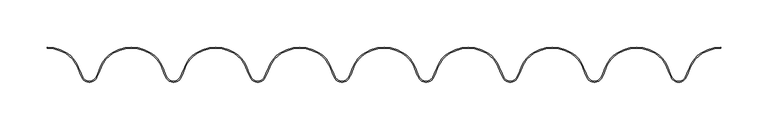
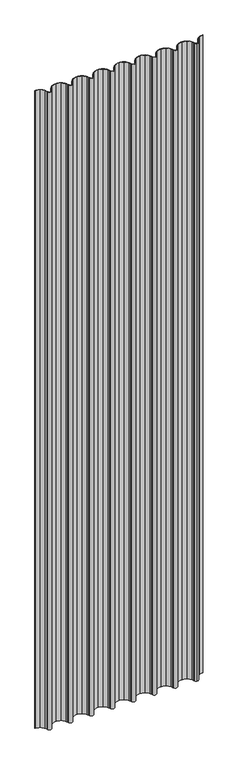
"""IFC4 building model written with IfcOpenShell, lengths in millimetres: plate geometry, Regolare Vertical 712 : Regolare Vertical 712."""

import ifcopenshell
import ifcopenshell.guid

model = None  # the IFC model being written
_history = None  # IfcOwnerHistory: only IFC2X3 demands one
_inside = {}  # id of a spatial element -> (the spatial element, [elements in it])
_under = {}  # id of a project, library or spatial element -> (it, [spatial elements below it])
_declared = {}  # id of a project -> (the project, [libraries it declares])
_typed = {}  # id of a type object -> (the type object, [elements of that type])
_made_of = {}  # id of a material, layer set ... -> (it, [elements and type objects made of it])


def new_model(schema):
    """Start an empty IFC model of exactly this schema.

    Asked for "IFC4X3", IfcOpenShell would pick the latest addendum, in which some entities
    have other attributes; the version numbers below select the first issue.
    IFC2X3 requires an IfcOwnerHistory on every rooted entity: one is made here for all.
    """
    global model, _history
    if schema == "IFC4X3":
        model = ifcopenshell.file(schema_version=(4, 3, 0, 0))
    else:
        model = ifcopenshell.file(schema=schema)
    _inside.clear()
    _under.clear()
    _declared.clear()
    _typed.clear()
    _made_of.clear()
    _history = None
    if model.schema == "IFC2X3":
        org = make("IfcOrganization", Name="unknown")
        user = make(
            "IfcPersonAndOrganization",
            ThePerson=make("IfcPerson", FamilyName="unknown"),
            TheOrganization=org,
        )
        app = make(
            "IfcApplication",
            ApplicationDeveloper=org,
            Version="unknown",
            ApplicationFullName="unknown",
            ApplicationIdentifier="unknown",
        )
        _history = make(
            "IfcOwnerHistory",
            OwningUser=user,
            OwningApplication=app,
            ChangeAction="ADDED",
            CreationDate=0,
        )
    return model


def make(cls, **values):
    """One entity of the class cls with the attributes given. An attribute that is None is left unset."""
    return model.create_entity(
        cls, **{name: value for name, value in values.items() if value is not None}
    )


def rooted(cls, **values):
    """An entity with a GlobalId (a new one), such as an element, a storey or a relation."""
    return make(cls, GlobalId=ifcopenshell.guid.new(), OwnerHistory=_history, **values)


def si_unit(unit_type, name, prefix=None):
    """IfcSIUnit, for example si_unit("LENGTHUNIT", "METRE", prefix="MILLI")."""
    return make("IfcSIUnit", UnitType=unit_type, Prefix=prefix, Name=name)


def assignment(units):
    """IfcUnitAssignment: the units of a project."""
    return None if units is None else make("IfcUnitAssignment", Units=units)


def point(xyz):
    """IfcCartesianPoint."""
    return None if xyz is None else make("IfcCartesianPoint", Coordinates=xyz)


def direction(xyz):
    """IfcDirection."""
    return None if xyz is None else make("IfcDirection", DirectionRatios=xyz)


def frame(location, z_axis=None, x_axis=None):
    """IfcAxis2Placement3D, a coordinate frame: its origin and axes. An axis left out is left unset."""
    return make(
        "IfcAxis2Placement3D",
        Location=point(location),
        Axis=direction(z_axis),
        RefDirection=direction(x_axis),
    )


def frame_2d(location, x_axis=None):
    """IfcAxis2Placement2D, a coordinate frame in the plane: its origin and x axis."""
    return make(
        "IfcAxis2Placement2D", Location=point(location), RefDirection=direction(x_axis)
    )


def origin():
    """The frame at (0, 0, 0) with its axes left unset."""
    return frame((0.0, 0.0, 0.0))


def origin_with_axes():
    """The frame at (0, 0, 0) with the z axis (0, 0, 1) and the x axis (1, 0, 0) written out."""
    return frame((0.0, 0.0, 0.0), z_axis=(0.0, 0.0, 1.0), x_axis=(1.0, 0.0, 0.0))


def place(relative_to, where):
    """IfcLocalPlacement: puts the frame where relative to a parent placement (None: the world)."""
    return make(
        "IfcLocalPlacement", PlacementRelTo=relative_to, RelativePlacement=where
    )


def context(
    kind, dimensions, precision=None, world=None, true_north=None, identifier=None
):
    """IfcGeometricRepresentationContext, for example the 3D "Model" context."""
    return make(
        "IfcGeometricRepresentationContext",
        ContextIdentifier=identifier,
        ContextType=kind,
        CoordinateSpaceDimension=dimensions,
        Precision=precision,
        WorldCoordinateSystem=world,
        TrueNorth=true_north,
    )


def project(units=None, contexts=None):
    """IfcProject with its units and contexts."""
    return rooted(
        "IfcProject",
        Name="project",
        RepresentationContexts=contexts,
        UnitsInContext=assignment(units),
    )


def spatial(cls, under=None, at=None, **own):
    """A site, building, storey or space (cls), placed at a placement, below another one or the project."""
    s = rooted(cls, ObjectPlacement=at, **own)
    if under is not None:
        _under.setdefault(under.id(), (under, []))[1].append(s)
    return s


def polyline(points):
    """IfcPolyline through the points."""
    return make("IfcPolyline", Points=[point(p) for p in points])


def circle_curve(where, radius):
    """IfcCircle in the frame where."""
    return make("IfcCircle", Position=where, Radius=radius)


def trimmed(basis, trim1, trim2, sense, master):
    """IfcTrimmedCurve: the piece of a basis curve between two trims."""
    return make(
        "IfcTrimmedCurve",
        BasisCurve=basis,
        Trim1=trim1,
        Trim2=trim2,
        SenseAgreement=sense,
        MasterRepresentation=master,
    )


def segment(curve, same_sense, transition):
    """IfcCompositeCurveSegment."""
    return make(
        "IfcCompositeCurveSegment",
        Transition=transition,
        SameSense=same_sense,
        ParentCurve=curve,
    )


def composite_curve(segments, self_intersect=None):
    """IfcCompositeCurve: segments joined end to end."""
    return make("IfcCompositeCurve", Segments=segments, SelfIntersect=self_intersect)


def outline(outer, holes=None, kind="AREA"):
    """IfcArbitraryClosedProfileDef: a profile drawn as a closed curve; with holes, ...WithVoids."""
    if holes is None:
        return make("IfcArbitraryClosedProfileDef", ProfileType=kind, OuterCurve=outer)
    return make(
        "IfcArbitraryProfileDefWithVoids",
        ProfileType=kind,
        OuterCurve=outer,
        InnerCurves=holes,
    )


def extrude(swept, where, along, depth):
    """IfcExtrudedAreaSolid: the profile swept, set in the frame where, extruded along a direction by depth."""
    return make(
        "IfcExtrudedAreaSolid",
        SweptArea=swept,
        Position=where,
        ExtrudedDirection=direction(along),
        Depth=depth,
    )


def shape(context_of_items, identifier, shape_type, items):
    """IfcShapeRepresentation: the items that make up one representation, for example the "Body"."""
    return make(
        "IfcShapeRepresentation",
        ContextOfItems=context_of_items,
        RepresentationIdentifier=identifier,
        RepresentationType=shape_type,
        Items=items,
    )


def source(mapping_origin, context_of_items, identifier, shape_type, items):
    """IfcRepresentationMap: a shape defined once, which mapped items show again and again."""
    return make(
        "IfcRepresentationMap",
        MappingOrigin=mapping_origin,
        MappedRepresentation=shape(context_of_items, identifier, shape_type, items),
    )


def transform(
    local_origin,
    x_axis=None,
    y_axis=None,
    z_axis=None,
    scale=None,
    scale2=None,
    scale3=None,
    uniform=True,
):
    """IfcCartesianTransformationOperator3D, or its non-uniform kind. x_axis, y_axis, z_axis: its Axis1, 2, 3."""
    if uniform:
        return make(
            "IfcCartesianTransformationOperator3D",
            Axis1=direction(x_axis),
            Axis2=direction(y_axis),
            LocalOrigin=point(local_origin),
            Scale=scale,
            Axis3=direction(z_axis),
        )
    return make(
        "IfcCartesianTransformationOperator3DnonUniform",
        Axis1=direction(x_axis),
        Axis2=direction(y_axis),
        LocalOrigin=point(local_origin),
        Scale=scale,
        Axis3=direction(z_axis),
        Scale2=scale2,
        Scale3=scale3,
    )


def mapped(mapping_source, mapping_target):
    """IfcMappedItem: shows the shape of a source again, moved by a transform."""
    return make(
        "IfcMappedItem", MappingSource=mapping_source, MappingTarget=mapping_target
    )


def made_of(thing, what):
    """Note that an element or type object is made of a material, layer set ...; save() writes the relation."""
    if what is not None:
        _made_of.setdefault(what.id(), (what, []))[1].append(thing)
    return thing


def element(
    cls,
    number,
    at=None,
    inside=None,
    cuts=None,
    type_object=None,
    material=None,
    context=None,
    identifier="Body",
    shape_type=None,
    held_by="IfcProductDefinitionShape",
    body=None,
    shapes=None,
    **own,
):
    """One element of the class cls, such as IfcWall. Its Tag is "e" and its number.

    at: its placement. inside: the storey or other place that contains it. cuts: it is an
    opening in that element (IfcRelVoidsElement). A single representation is given by context,
    identifier, shape_type and body (its items); several are given by shapes. held_by: the class
    of the entity that holds the representations. save() writes the other relations.
    """
    e = rooted(cls, Tag="e%d" % number, ObjectPlacement=at, **own)
    if body is not None:
        shapes = [shape(context, identifier, shape_type, body)]
    if shapes is not None:
        e.Representation = make(held_by, Representations=shapes)
    if inside is not None:
        _inside.setdefault(inside.id(), (inside, []))[1].append(e)
    if cuts is not None:
        rooted(
            "IfcRelVoidsElement", RelatingBuildingElement=cuts, RelatedOpeningElement=e
        )
    if type_object is not None:
        _typed.setdefault(type_object.id(), (type_object, []))[1].append(e)
    return made_of(e, material)


def aggregate(whole, parts):
    """IfcRelAggregates: a whole, such as a stair, and the parts it consists of."""
    return rooted("IfcRelAggregates", RelatingObject=whole, RelatedObjects=parts)


def save(model, path):
    """Write the relations noted so far, then the file.

    IfcRelAggregates (storeys below a building ...), IfcRelContainedInSpatialStructure (elements
    in a storey), IfcRelDefinesByType, IfcRelAssociatesMaterial and IfcRelDeclares: one each for
    every whole, place, type object, material and project.
    """
    for whole, parts in _under.values():
        aggregate(whole, parts)
    for where, things in _inside.values():
        rooted(
            "IfcRelContainedInSpatialStructure",
            RelatedElements=things,
            RelatingStructure=where,
        )
    for kind, things in _typed.values():
        rooted("IfcRelDefinesByType", RelatedObjects=things, RelatingType=kind)
    for what, things in _made_of.values():
        rooted("IfcRelAssociatesMaterial", RelatedObjects=things, RelatingMaterial=what)
    for by, libraries in _declared.values():
        rooted("IfcRelDeclares", RelatingContext=by, RelatedDefinitions=libraries)
    model.write(path)


def plate_0610edab(model_context):
    return source(origin(), model_context, "Body", "SweptSolid", [
        extrude(outline(composite_curve([segment(trimmed(circle_curve(frame_2d((352.6403111, -32.6206681)), 30.6166783), [point((336.6652062, -6.5021495))], [point((324.2132212, -21.2504634))], True, "CARTESIAN"), True, "CONTINUOUS"), segment(polyline([(324.2132212, -21.2504634), (321.3316353, -28.4448583), (319.6710106, -31.9093405)]), True, "CONTINUOUS"), segment(trimmed(circle_curve(frame_2d((311.6802118, -28.0791236)), 8.8613445), [point((319.6710106, -31.9093405))], [point((311.6802118, -36.9404682))], False, "CARTESIAN"), True, "CONTINUOUS"), segment(trimmed(circle_curve(frame_2d((311.6802118, -28.0791236)), 8.8613445), [point((311.6802118, -36.9404682))], [point((303.689413, -31.9093405))], False, "CARTESIAN"), True, "CONTINUOUS"), segment(polyline([(303.689413, -31.9093405), (302.0287882, -28.4448583), (299.1472023, -21.2504634)]), True, "CONTINUOUS"), segment(trimmed(circle_curve(frame_2d((270.7201125, -32.6206681)), 30.6166783), [point((299.1472023, -21.2504634))], [point((286.6952174, -6.5021495))], True, "CARTESIAN"), True, "CONTINUOUS"), segment(trimmed(circle_curve(frame_2d((267.1544672, -38.4503244)), 37.4503244), [point((286.6952174, -6.5021495))], [point((267.1544672, -1.0))], True, "CARTESIAN"), True, "CONTINUOUS"), segment(trimmed(circle_curve(frame_2d((267.1544672, -38.4503244)), 37.4503244), [point((267.1544672, -1.0))], [point((247.6137171, -6.5021495))], True, "CARTESIAN"), True, "CONTINUOUS"), segment(trimmed(circle_curve(frame_2d((263.588822, -32.6206681)), 30.6166783), [point((247.6137171, -6.5021495))], [point((235.1617322, -21.2504634))], True, "CARTESIAN"), True, "CONTINUOUS"), segment(polyline([(235.1617322, -21.2504634), (232.2801463, -28.4448583), (230.6195215, -31.9093405)]), True, "CONTINUOUS"), segment(trimmed(circle_curve(frame_2d((222.6287227, -28.0791236)), 8.8613445), [point((230.6195215, -31.9093405))], [point((214.6379239, -31.9093405))], False, "CARTESIAN"), True, "CONTINUOUS"), segment(polyline([(214.6379239, -31.9093405), (212.9772992, -28.4448583), (210.0957133, -21.2504634)]), True, "CONTINUOUS"), segment(trimmed(circle_curve(frame_2d((181.6686234, -32.6206681)), 30.6166783), [point((210.0957133, -21.2504634))], [point((197.6437283, -6.5021495))], True, "CARTESIAN"), True, "CONTINUOUS"), segment(trimmed(circle_curve(frame_2d((178.1029782, -38.4503244)), 37.4503244), [point((197.6437283, -6.5021495))], [point((178.1029782, -1.0))], True, "CARTESIAN"), True, "CONTINUOUS"), segment(trimmed(circle_curve(frame_2d((178.1029782, -38.4503244)), 37.4503244), [point((178.1029782, -1.0))], [point((158.562228, -6.5021495))], True, "CARTESIAN"), True, "CONTINUOUS"), segment(trimmed(circle_curve(frame_2d((174.5373329, -32.6206681)), 30.6166783), [point((158.562228, -6.5021495))], [point((146.1102431, -21.2504634))], True, "CARTESIAN"), True, "CONTINUOUS"), segment(polyline([(146.1102431, -21.2504634), (143.2286572, -28.4448583), (141.5680324, -31.9093405)]), True, "CONTINUOUS"), segment(trimmed(circle_curve(frame_2d((133.5772336, -28.0791236)), 8.8613445), [point((141.5680324, -31.9093405))], [point((125.5864348, -31.9093405))], False, "CARTESIAN"), True, "CONTINUOUS"), segment(polyline([(125.5864348, -31.9093405), (123.9258101, -28.4448583), (121.0442242, -21.2504634)]), True, "CONTINUOUS"), segment(trimmed(circle_curve(frame_2d((92.6171343, -32.6206681)), 30.6166783), [point((121.0442242, -21.2504634))], [point((108.5922392, -6.5021495))], True, "CARTESIAN"), True, "CONTINUOUS"), segment(trimmed(circle_curve(frame_2d((89.0514891, -38.4503244)), 37.4503244), [point((108.5922392, -6.5021495))], [point((89.0514891, -1.0))], True, "CARTESIAN"), True, "CONTINUOUS"), segment(trimmed(circle_curve(frame_2d((89.0514891, -38.4503244)), 37.4503244), [point((89.0514891, -1.0))], [point((69.5107389, -6.5021495))], True, "CARTESIAN"), True, "CONTINUOUS"), segment(trimmed(circle_curve(frame_2d((85.4858438, -32.6206681)), 30.6166783), [point((69.5107389, -6.5021495))], [point((57.058754, -21.2504634))], True, "CARTESIAN"), True, "CONTINUOUS"), segment(polyline([(57.058754, -21.2504634), (54.1771681, -28.4448583), (52.5165434, -31.9093405)]), True, "CONTINUOUS"), segment(trimmed(circle_curve(frame_2d((44.5257445, -28.0791236)), 8.8613445), [point((52.5165434, -31.9093405))], [point((36.5349457, -31.9093405))], False, "CARTESIAN"), True, "CONTINUOUS"), segment(polyline([(36.5349457, -31.9093405), (34.874321, -28.4448583), (31.9927351, -21.2504634)]), True, "CONTINUOUS"), segment(trimmed(circle_curve(frame_2d((3.5656452, -32.6206681)), 30.6166783), [point((31.9927351, -21.2504634))], [point((19.5407501, -6.5021495))], True, "CARTESIAN"), True, "CONTINUOUS"), segment(trimmed(circle_curve(frame_2d((0.0, -38.4503244)), 37.4503244), [point((19.5407501, -6.5021495))], [point((0.0, -1.0))], True, "CARTESIAN"), True, "CONTINUOUS"), segment(trimmed(circle_curve(frame_2d((0.0, -38.4503244)), 37.4503244), [point((0.0, -1.0))], [point((-19.5407501, -6.5021495))], True, "CARTESIAN"), True, "CONTINUOUS"), segment(trimmed(circle_curve(frame_2d((-3.5656452, -32.6206681)), 30.6166783), [point((-19.5407501, -6.5021495))], [point((-31.9927351, -21.2504634))], True, "CARTESIAN"), True, "CONTINUOUS"), segment(polyline([(-31.9927351, -21.2504634), (-34.874321, -28.4448583), (-36.5349457, -31.9093405)]), True, "CONTINUOUS"), segment(trimmed(circle_curve(frame_2d((-44.5257445, -28.0791236)), 8.8613445), [point((-36.5349457, -31.9093405))], [point((-52.5165434, -31.9093405))], False, "CARTESIAN"), True, "CONTINUOUS"), segment(polyline([(-52.5165434, -31.9093405), (-54.1771681, -28.4448583), (-57.058754, -21.2504634)]), True, "CONTINUOUS"), segment(trimmed(circle_curve(frame_2d((-85.4858438, -32.6206681)), 30.6166783), [point((-57.058754, -21.2504634))], [point((-69.5107389, -6.5021495))], True, "CARTESIAN"), True, "CONTINUOUS"), segment(trimmed(circle_curve(frame_2d((-89.0514891, -38.4503244)), 37.4503244), [point((-69.5107389, -6.5021495))], [point((-89.0514891, -1.0))], True, "CARTESIAN"), True, "CONTINUOUS"), segment(trimmed(circle_curve(frame_2d((-89.0514891, -38.4503244)), 37.4503244), [point((-89.0514891, -1.0))], [point((-108.5922392, -6.5021495))], True, "CARTESIAN"), True, "CONTINUOUS"), segment(trimmed(circle_curve(frame_2d((-92.6171343, -32.6206681)), 30.6166783), [point((-108.5922392, -6.5021495))], [point((-121.0442242, -21.2504634))], True, "CARTESIAN"), True, "CONTINUOUS"), segment(polyline([(-121.0442242, -21.2504634), (-123.9258101, -28.4448583), (-125.5864348, -31.9093405)]), True, "CONTINUOUS"), segment(trimmed(circle_curve(frame_2d((-133.5772336, -28.0791236)), 8.8613445), [point((-125.5864348, -31.9093405))], [point((-141.5680324, -31.9093405))], False, "CARTESIAN"), True, "CONTINUOUS"), segment(polyline([(-141.5680324, -31.9093405), (-143.2286572, -28.4448583), (-146.1102431, -21.2504634)]), True, "CONTINUOUS"), segment(trimmed(circle_curve(frame_2d((-174.5373329, -32.6206681)), 30.6166783), [point((-146.1102431, -21.2504634))], [point((-158.562228, -6.5021495))], True, "CARTESIAN"), True, "CONTINUOUS"), segment(trimmed(circle_curve(frame_2d((-178.1029782, -38.4503244)), 37.4503244), [point((-158.562228, -6.5021495))], [point((-178.1029782, -1.0))], True, "CARTESIAN"), True, "CONTINUOUS"), segment(trimmed(circle_curve(frame_2d((-178.1029782, -38.4503244)), 37.4503244), [point((-178.1029782, -1.0))], [point((-197.6437283, -6.5021495))], True, "CARTESIAN"), True, "CONTINUOUS"), segment(trimmed(circle_curve(frame_2d((-181.6686234, -32.6206681)), 30.6166783), [point((-197.6437283, -6.5021495))], [point((-210.0957133, -21.2504634))], True, "CARTESIAN"), True, "CONTINUOUS"), segment(polyline([(-210.0957133, -21.2504634), (-212.9772992, -28.4448583), (-214.6379239, -31.9093405)]), True, "CONTINUOUS"), segment(trimmed(circle_curve(frame_2d((-222.6287227, -28.0791236)), 8.8613445), [point((-214.6379239, -31.9093405))], [point((-230.6195215, -31.9093405))], False, "CARTESIAN"), True, "CONTINUOUS"), segment(polyline([(-230.6195215, -31.9093405), (-232.2801463, -28.4448583), (-235.1617322, -21.2504634)]), True, "CONTINUOUS"), segment(trimmed(circle_curve(frame_2d((-263.588822, -32.6206681)), 30.6166783), [point((-235.1617322, -21.2504634))], [point((-247.6137171, -6.5021495))], True, "CARTESIAN"), True, "CONTINUOUS"), segment(trimmed(circle_curve(frame_2d((-267.1544672, -38.4503244)), 37.4503244), [point((-247.6137171, -6.5021495))], [point((-267.1544672, -1.0))], True, "CARTESIAN"), True, "CONTINUOUS"), segment(trimmed(circle_curve(frame_2d((-267.1544672, -38.4503244)), 37.4503244), [point((-267.1544672, -1.0))], [point((-286.6952174, -6.5021495))], True, "CARTESIAN"), True, "CONTINUOUS"), segment(trimmed(circle_curve(frame_2d((-270.7201125, -32.6206681)), 30.6166783), [point((-286.6952174, -6.5021495))], [point((-299.1472023, -21.2504634))], True, "CARTESIAN"), True, "CONTINUOUS"), segment(polyline([(-299.1472023, -21.2504634), (-302.0287882, -28.4448583), (-303.689413, -31.9093405)]), True, "CONTINUOUS"), segment(trimmed(circle_curve(frame_2d((-311.6802118, -28.0791236)), 8.8613445), [point((-303.689413, -31.9093405))], [point((-319.6710106, -31.9093405))], False, "CARTESIAN"), True, "CONTINUOUS"), segment(polyline([(-319.6710106, -31.9093405), (-321.3316353, -28.4448583), (-324.2132212, -21.2504634)]), True, "CONTINUOUS"), segment(trimmed(circle_curve(frame_2d((-352.6403111, -32.6206681)), 30.6166783), [point((-324.2132212, -21.2504634))], [point((-336.6652062, -6.5021495))], True, "CARTESIAN"), True, "CONTINUOUS"), segment(trimmed(circle_curve(frame_2d((-356.2059563, -38.4503244)), 37.4503244), [point((-336.6652062, -6.5021495))], [point((-356.2059563, -1.0))], True, "CARTESIAN"), True, "CONTINUOUS"), segment(polyline([(-356.2059563, -1.0), (-356.2059563, 0.0)]), True, "CONTINUOUS"), segment(trimmed(circle_curve(frame_2d((-356.2059563, -38.4503244)), 38.4503244), [point((-356.2059563, 0.0))], [point((-336.1434283, -5.6490681))], False, "CARTESIAN"), True, "CONTINUOUS"), segment(trimmed(circle_curve(frame_2d((-352.6403111, -32.6206681)), 31.6166783), [point((-336.1434283, -5.6490681))], [point((-323.2848269, -20.878867))], False, "CARTESIAN"), True, "CONTINUOUS"), segment(polyline([(-323.2848269, -20.878867), (-320.4156051, -28.0423924), (-318.7692514, -31.4771017)]), True, "CONTINUOUS"), segment(trimmed(circle_curve(frame_2d((-311.6802118, -28.0791236)), 7.8613445), [point((-318.7692514, -31.4771017))], [point((-304.5911721, -31.4771017))], True, "CARTESIAN"), True, "CONTINUOUS"), segment(polyline([(-304.5911721, -31.4771017), (-302.9448184, -28.0423924), (-300.0755967, -20.878867)]), True, "CONTINUOUS"), segment(trimmed(circle_curve(frame_2d((-270.7201125, -32.6206681)), 31.6166783), [point((-300.0755967, -20.878867))], [point((-287.2169952, -5.6490681))], False, "CARTESIAN"), True, "CONTINUOUS"), segment(trimmed(circle_curve(frame_2d((-267.1544672, -38.4503244)), 38.4503244), [point((-287.2169952, -5.6490681))], [point((-267.1544672, 0.0))], False, "CARTESIAN"), True, "CONTINUOUS"), segment(trimmed(circle_curve(frame_2d((-267.1544672, -38.4503244)), 38.4503244), [point((-267.1544672, 0.0))], [point((-247.0919392, -5.6490681))], False, "CARTESIAN"), True, "CONTINUOUS"), segment(trimmed(circle_curve(frame_2d((-263.588822, -32.6206681)), 31.6166783), [point((-247.0919392, -5.6490681))], [point((-234.2333378, -20.878867))], False, "CARTESIAN"), True, "CONTINUOUS"), segment(polyline([(-234.2333378, -20.878867), (-231.3641161, -28.0423924), (-229.7177623, -31.4771017)]), True, "CONTINUOUS"), segment(trimmed(circle_curve(frame_2d((-222.6287227, -28.0791236)), 7.8613445), [point((-229.7177623, -31.4771017))], [point((-215.5396831, -31.4771017))], True, "CARTESIAN"), True, "CONTINUOUS"), segment(polyline([(-215.5396831, -31.4771017), (-213.8933293, -28.0423924), (-211.0241076, -20.878867)]), True, "CONTINUOUS"), segment(trimmed(circle_curve(frame_2d((-181.6686234, -32.6206681)), 31.6166783), [point((-211.0241076, -20.878867))], [point((-198.1655062, -5.6490681))], False, "CARTESIAN"), True, "CONTINUOUS"), segment(trimmed(circle_curve(frame_2d((-178.1029782, -38.4503244)), 38.4503244), [point((-198.1655062, -5.6490681))], [point((-178.1029782, 0.0))], False, "CARTESIAN"), True, "CONTINUOUS"), segment(trimmed(circle_curve(frame_2d((-178.1029782, -38.4503244)), 38.4503244), [point((-178.1029782, 0.0))], [point((-158.0404502, -5.6490681))], False, "CARTESIAN"), True, "CONTINUOUS"), segment(trimmed(circle_curve(frame_2d((-174.5373329, -32.6206681)), 31.6166783), [point((-158.0404502, -5.6490681))], [point((-145.1818487, -20.878867))], False, "CARTESIAN"), True, "CONTINUOUS"), segment(polyline([(-145.1818487, -20.878867), (-142.312627, -28.0423924), (-140.6662733, -31.4771017)]), True, "CONTINUOUS"), segment(trimmed(circle_curve(frame_2d((-133.5772336, -28.0791236)), 7.8613445), [point((-140.6662733, -31.4771017))], [point((-126.488194, -31.4771017))], True, "CARTESIAN"), True, "CONTINUOUS"), segment(polyline([(-126.488194, -31.4771017), (-124.8418403, -28.0423924), (-121.9726185, -20.878867)]), True, "CONTINUOUS"), segment(trimmed(circle_curve(frame_2d((-92.6171343, -32.6206681)), 31.6166783), [point((-121.9726185, -20.878867))], [point((-109.1140171, -5.6490681))], False, "CARTESIAN"), True, "CONTINUOUS"), segment(trimmed(circle_curve(frame_2d((-89.0514891, -38.4503244)), 38.4503244), [point((-109.1140171, -5.6490681))], [point((-89.0514891, 0.0))], False, "CARTESIAN"), True, "CONTINUOUS"), segment(trimmed(circle_curve(frame_2d((-89.0514891, -38.4503244)), 38.4503244), [point((-89.0514891, 0.0))], [point((-68.9889611, -5.6490681))], False, "CARTESIAN"), True, "CONTINUOUS"), segment(trimmed(circle_curve(frame_2d((-85.4858438, -32.6206681)), 31.6166783), [point((-68.9889611, -5.6490681))], [point((-56.1303596, -20.878867))], False, "CARTESIAN"), True, "CONTINUOUS"), segment(polyline([(-56.1303596, -20.878867), (-53.2611379, -28.0423924), (-51.6147842, -31.4771017)]), True, "CONTINUOUS"), segment(trimmed(circle_curve(frame_2d((-44.5257445, -28.0791236)), 7.8613445), [point((-51.6147842, -31.4771017))], [point((-37.4367049, -31.4771017))], True, "CARTESIAN"), True, "CONTINUOUS"), segment(polyline([(-37.4367049, -31.4771017), (-35.7903512, -28.0423924), (-32.9211295, -20.878867)]), True, "CONTINUOUS"), segment(trimmed(circle_curve(frame_2d((-3.5656452, -32.6206681)), 31.6166783), [point((-32.9211295, -20.878867))], [point((-20.062528, -5.6490681))], False, "CARTESIAN"), True, "CONTINUOUS"), segment(trimmed(circle_curve(frame_2d((0.0, -38.4503244)), 38.4503244), [point((-20.062528, -5.6490681))], [point((0.0, 0.0))], False, "CARTESIAN"), True, "CONTINUOUS"), segment(trimmed(circle_curve(frame_2d((0.0, -38.4503244)), 38.4503244), [point((0.0, 0.0))], [point((20.062528, -5.6490681))], False, "CARTESIAN"), True, "CONTINUOUS"), segment(trimmed(circle_curve(frame_2d((3.5656452, -32.6206681)), 31.6166783), [point((20.062528, -5.6490681))], [point((32.9211295, -20.878867))], False, "CARTESIAN"), True, "CONTINUOUS"), segment(polyline([(32.9211295, -20.878867), (35.7903512, -28.0423924), (37.4367049, -31.4771017)]), True, "CONTINUOUS"), segment(trimmed(circle_curve(frame_2d((44.5257445, -28.0791236)), 7.8613445), [point((37.4367049, -31.4771017))], [point((51.6147842, -31.4771017))], True, "CARTESIAN"), True, "CONTINUOUS"), segment(polyline([(51.6147842, -31.4771017), (53.2611379, -28.0423924), (56.1303596, -20.878867)]), True, "CONTINUOUS"), segment(trimmed(circle_curve(frame_2d((85.4858438, -32.6206681)), 31.6166783), [point((56.1303596, -20.878867))], [point((68.9889611, -5.6490681))], False, "CARTESIAN"), True, "CONTINUOUS"), segment(trimmed(circle_curve(frame_2d((89.0514891, -38.4503244)), 38.4503244), [point((68.9889611, -5.6490681))], [point((89.0514891, 0.0))], False, "CARTESIAN"), True, "CONTINUOUS"), segment(trimmed(circle_curve(frame_2d((89.0514891, -38.4503244)), 38.4503244), [point((89.0514891, 0.0))], [point((109.1140171, -5.6490681))], False, "CARTESIAN"), True, "CONTINUOUS"), segment(trimmed(circle_curve(frame_2d((92.6171343, -32.6206681)), 31.6166783), [point((109.1140171, -5.6490681))], [point((121.9726185, -20.878867))], False, "CARTESIAN"), True, "CONTINUOUS"), segment(polyline([(121.9726185, -20.878867), (124.8418403, -28.0423924), (126.488194, -31.4771017)]), True, "CONTINUOUS"), segment(trimmed(circle_curve(frame_2d((133.5772336, -28.0791236)), 7.8613445), [point((126.488194, -31.4771017))], [point((140.6662733, -31.4771017))], True, "CARTESIAN"), True, "CONTINUOUS"), segment(polyline([(140.6662733, -31.4771017), (142.312627, -28.0423924), (145.1818487, -20.878867)]), True, "CONTINUOUS"), segment(trimmed(circle_curve(frame_2d((174.5373329, -32.6206681)), 31.6166783), [point((145.1818487, -20.878867))], [point((158.0404502, -5.6490681))], False, "CARTESIAN"), True, "CONTINUOUS"), segment(trimmed(circle_curve(frame_2d((178.1029782, -38.4503244)), 38.4503244), [point((158.0404502, -5.6490681))], [point((178.1029782, 0.0))], False, "CARTESIAN"), True, "CONTINUOUS"), segment(trimmed(circle_curve(frame_2d((178.1029782, -38.4503244)), 38.4503244), [point((178.1029782, 0.0))], [point((198.1655062, -5.6490681))], False, "CARTESIAN"), True, "CONTINUOUS"), segment(trimmed(circle_curve(frame_2d((181.6686234, -32.6206681)), 31.6166783), [point((198.1655062, -5.6490681))], [point((211.0241076, -20.878867))], False, "CARTESIAN"), True, "CONTINUOUS"), segment(polyline([(211.0241076, -20.878867), (213.8933293, -28.0423924), (215.5396831, -31.4771017)]), True, "CONTINUOUS"), segment(trimmed(circle_curve(frame_2d((222.6287227, -28.0791236)), 7.8613445), [point((215.5396831, -31.4771017))], [point((229.7177623, -31.4771017))], True, "CARTESIAN"), True, "CONTINUOUS"), segment(polyline([(229.7177623, -31.4771017), (231.3641161, -28.0423924), (234.2333378, -20.878867)]), True, "CONTINUOUS"), segment(trimmed(circle_curve(frame_2d((263.588822, -32.6206681)), 31.6166783), [point((234.2333378, -20.878867))], [point((247.0919392, -5.6490681))], False, "CARTESIAN"), True, "CONTINUOUS"), segment(trimmed(circle_curve(frame_2d((267.1544672, -38.4503244)), 38.4503244), [point((247.0919392, -5.6490681))], [point((267.1544672, 0.0))], False, "CARTESIAN"), True, "CONTINUOUS"), segment(trimmed(circle_curve(frame_2d((267.1544672, -38.4503244)), 38.4503244), [point((267.1544672, 0.0))], [point((287.2169952, -5.6490681))], False, "CARTESIAN"), True, "CONTINUOUS"), segment(trimmed(circle_curve(frame_2d((270.7201125, -32.6206681)), 31.6166783), [point((287.2169952, -5.6490681))], [point((300.0755967, -20.878867))], False, "CARTESIAN"), True, "CONTINUOUS"), segment(polyline([(300.0755967, -20.878867), (302.9448184, -28.0423924), (304.5911721, -31.4771017)]), True, "CONTINUOUS"), segment(trimmed(circle_curve(frame_2d((311.6802118, -28.0791236)), 7.8613445), [point((304.5911721, -31.4771017))], [point((311.6802118, -35.9404682))], True, "CARTESIAN"), True, "CONTINUOUS"), segment(trimmed(circle_curve(frame_2d((311.6802118, -28.0791236)), 7.8613445), [point((311.6802118, -35.9404682))], [point((318.7692514, -31.4771017))], True, "CARTESIAN"), True, "CONTINUOUS"), segment(polyline([(318.7692514, -31.4771017), (320.4156051, -28.0423924), (323.2848269, -20.878867)]), True, "CONTINUOUS"), segment(trimmed(circle_curve(frame_2d((352.6403111, -32.6206681)), 31.6166783), [point((323.2848269, -20.878867))], [point((336.1434283, -5.6490681))], False, "CARTESIAN"), True, "CONTINUOUS"), segment(trimmed(circle_curve(frame_2d((356.2059563, -38.4503244)), 38.4503244), [point((336.1434283, -5.6490681))], [point((356.2059563, 0.0))], False, "CARTESIAN"), True, "CONTINUOUS"), segment(polyline([(356.2059563, 0.0), (356.2059563, -1.0)]), True, "CONTINUOUS"), segment(trimmed(circle_curve(frame_2d((356.2059563, -38.4503244)), 37.4503244), [point((356.2059563, -1.0))], [point((336.6652062, -6.5021495))], True, "CARTESIAN"), True, "CONTINUOUS")], self_intersect=False)), origin_with_axes(), (0.0, 0.0, 1.0), 2859.2009216),
    ])


if __name__ == "__main__":
    model = new_model("IFC4")
    model_context = context("Model", 3, world=origin())
    ifc_project = project(units=[si_unit("LENGTHUNIT", "METRE", prefix="MILLI")], contexts=[model_context])
    site = spatial("IfcSite", under=ifc_project)
    building = spatial("IfcBuilding", under=site)
    placement = place(None, origin())
    plate_shape = plate_0610edab(model_context)
    element("IfcPlate", 1, ObjectType="Regolare Vertical 712 : Regolare Vertical 712", at=placement, inside=building, context=model_context, shape_type="MappedRepresentation", body=[
        mapped(plate_shape, transform((0.0, 0.0, 0.0), x_axis=(1.0, 0.0, 0.0), y_axis=(0.0, 1.0, 0.0), z_axis=(0.0, 0.0, 1.0))),
    ])
    save(model, "model.ifc")
